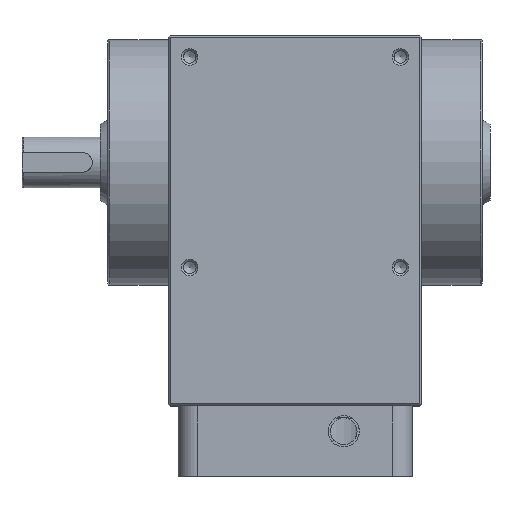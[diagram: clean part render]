
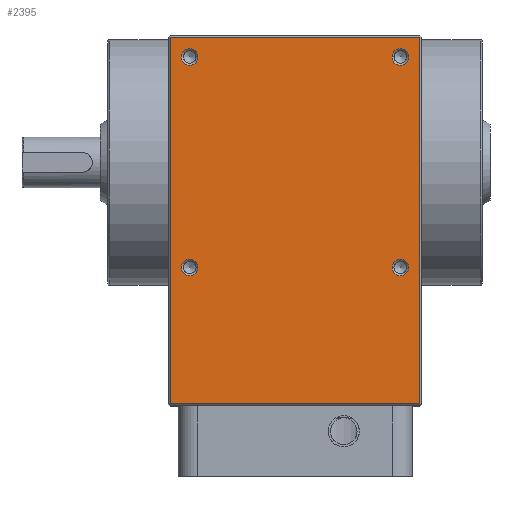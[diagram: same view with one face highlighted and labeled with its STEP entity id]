
A CAD part, top view. The second image highlights one B-rep face of the part: STEP entity #2395.
In plain terms, the highlighted planar face has unit normal (0, 0, 1).
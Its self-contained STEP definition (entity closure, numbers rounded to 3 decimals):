
#2276=CARTESIAN_POINT('',(-32.0,-62.0,65.0));
#2277=VERTEX_POINT('',#2276);
#2284=CARTESIAN_POINT('',(-32.0,32.,65.0));
#2285=VERTEX_POINT('',#2284);
#2286=CARTESIAN_POINT('',(-32.0,32.,65.0));
#2287=DIRECTION('',(0.0,-1.0,0.0));
#2288=VECTOR('',#2287,94.);
#2289=LINE('',#2286,#2288);
#2290=EDGE_CURVE('',#2285,#2277,#2289,.T.);
#2308=CARTESIAN_POINT('',(32.0,-62.0,65.0));
#2309=VERTEX_POINT('',#2308);
#2316=CARTESIAN_POINT('',(32.0,-62.0,65.0));
#2317=DIRECTION('',(-1.0,0.0,0.0));
#2318=VECTOR('',#2317,64.0);
#2319=LINE('',#2316,#2318);
#2320=EDGE_CURVE('',#2309,#2277,#2319,.T.);
#2328=CARTESIAN_POINT('',(0.,0.0,65.0));
#2329=DIRECTION('',(0.0,0.0,1.0));
#2330=DIRECTION('',(1.0,0.0,0.0));
#2331=AXIS2_PLACEMENT_3D('',#2328,#2329,#2330);
#2332=PLANE('',#2331);
#2333=ORIENTED_EDGE('',*,*,#2320,.F.);
#2334=CARTESIAN_POINT('',(32.0,32.0,65.0));
#2335=VERTEX_POINT('',#2334);
#2336=CARTESIAN_POINT('',(32.0,32.0,65.0));
#2337=DIRECTION('',(0.0,-1.0,0.0));
#2338=VECTOR('',#2337,94.0);
#2339=LINE('',#2336,#2338);
#2340=EDGE_CURVE('',#2335,#2309,#2339,.T.);
#2341=ORIENTED_EDGE('',*,*,#2340,.F.);
#2342=CARTESIAN_POINT('',(-32.0,32.0,65.0));
#2343=DIRECTION('',(1.0,0.0,0.0));
#2344=VECTOR('',#2343,64.0);
#2345=LINE('',#2342,#2344);
#2346=EDGE_CURVE('',#2285,#2335,#2345,.T.);
#2347=ORIENTED_EDGE('',*,*,#2346,.F.);
#2348=ORIENTED_EDGE('',*,*,#2290,.T.);
#2349=EDGE_LOOP('',(#2333,#2341,#2347,#2348));
#2350=FACE_OUTER_BOUND('',#2349,.T.);
#2351=CARTESIAN_POINT('',(-24.879,-27.0,65.0));
#2352=VERTEX_POINT('',#2351);
#2353=CARTESIAN_POINT('',(-27.,-27.0,65.0));
#2354=DIRECTION('',(0.0,0.0,1.0));
#2355=DIRECTION('',(-1.0,0.0,0.0));
#2356=AXIS2_PLACEMENT_3D('',#2353,#2354,#2355);
#2357=CIRCLE('',#2356,2.121);
#2358=EDGE_CURVE('',#2352,#2352,#2357,.T.);
#2359=ORIENTED_EDGE('',*,*,#2358,.F.);
#2360=EDGE_LOOP('',(#2359));
#2361=FACE_BOUND('',#2360,.T.);
#2362=CARTESIAN_POINT('',(29.121,27.0,65.0));
#2363=VERTEX_POINT('',#2362);
#2364=CARTESIAN_POINT('',(27.0,27.0,65.0));
#2365=DIRECTION('',(0.0,0.0,1.0));
#2366=DIRECTION('',(-1.0,0.0,0.0));
#2367=AXIS2_PLACEMENT_3D('',#2364,#2365,#2366);
#2368=CIRCLE('',#2367,2.121);
#2369=EDGE_CURVE('',#2363,#2363,#2368,.T.);
#2370=ORIENTED_EDGE('',*,*,#2369,.F.);
#2371=EDGE_LOOP('',(#2370));
#2372=FACE_BOUND('',#2371,.T.);
#2373=CARTESIAN_POINT('',(-24.879,27.0,65.0));
#2374=VERTEX_POINT('',#2373);
#2375=CARTESIAN_POINT('',(-27.,27.0,65.0));
#2376=DIRECTION('',(0.0,0.0,1.0));
#2377=DIRECTION('',(-1.0,0.0,0.0));
#2378=AXIS2_PLACEMENT_3D('',#2375,#2376,#2377);
#2379=CIRCLE('',#2378,2.121);
#2380=EDGE_CURVE('',#2374,#2374,#2379,.T.);
#2381=ORIENTED_EDGE('',*,*,#2380,.F.);
#2382=EDGE_LOOP('',(#2381));
#2383=FACE_BOUND('',#2382,.T.);
#2384=CARTESIAN_POINT('',(29.121,-27.0,65.0));
#2385=VERTEX_POINT('',#2384);
#2386=CARTESIAN_POINT('',(27.,-27.0,65.0));
#2387=DIRECTION('',(0.0,0.0,1.0));
#2388=DIRECTION('',(-1.0,0.0,0.0));
#2389=AXIS2_PLACEMENT_3D('',#2386,#2387,#2388);
#2390=CIRCLE('',#2389,2.121);
#2391=EDGE_CURVE('',#2385,#2385,#2390,.T.);
#2392=ORIENTED_EDGE('',*,*,#2391,.F.);
#2393=EDGE_LOOP('',(#2392));
#2394=FACE_BOUND('',#2393,.T.);
#2395=ADVANCED_FACE('',(#2350,#2361,#2372,#2383,#2394),#2332,.T.);
